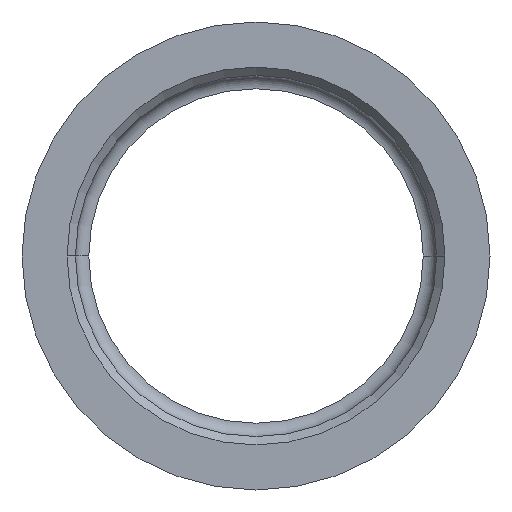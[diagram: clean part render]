
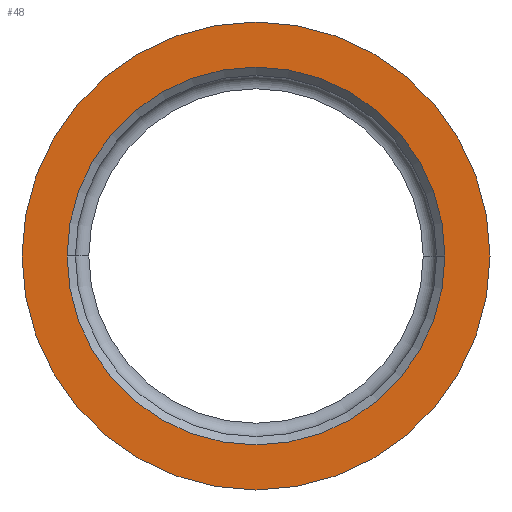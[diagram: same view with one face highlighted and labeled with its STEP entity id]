
A CAD part, front view. The second image highlights one B-rep face of the part: STEP entity #48.
In plain terms, the highlighted planar face has unit normal (0, -1, 0).
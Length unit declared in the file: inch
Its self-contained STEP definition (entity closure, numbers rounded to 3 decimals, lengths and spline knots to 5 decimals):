
#5 = EDGE_LOOP ( 'NONE', ( #27, #10 ) ) ;
#10 = ORIENTED_EDGE ( 'NONE', *, *, #138, .F. ) ;
#16 = ORIENTED_EDGE ( 'NONE', *, *, #85, .T. ) ;
#17 = ORIENTED_EDGE ( 'NONE', *, *, #47, .T. ) ;
#27 = ORIENTED_EDGE ( 'NONE', *, *, #28, .F. ) ;
#28 = EDGE_CURVE ( 'NONE', #136, #115, #227, .T. ) ;
#29 = EDGE_LOOP ( 'NONE', ( #16, #17 ) ) ;
#47 = EDGE_CURVE ( 'NONE', #78, #80, #236, .T. ) ;
#48 = ADVANCED_FACE ( 'NONE', ( #392, #401 ), #394, .F. ) ;
#78 = VERTEX_POINT ( 'NONE', #293 ) ;
#80 = VERTEX_POINT ( 'NONE', #328 ) ;
#85 = EDGE_CURVE ( 'NONE', #80, #78, #336, .T. ) ;
#115 = VERTEX_POINT ( 'NONE', #446 ) ;
#136 = VERTEX_POINT ( 'NONE', #407 ) ;
#138 = EDGE_CURVE ( 'NONE', #115, #136, #415, .T. ) ;
#213 = DIRECTION ( 'NONE',  ( 0., -1., 0. ) ) ;
#221 = DIRECTION ( 'NONE',  ( 1., 0., 0. ) ) ;
#222 = CARTESIAN_POINT ( 'NONE',  ( 0., 0., 0. ) ) ;
#227 = CIRCLE ( 'NONE', #242, 0.7065 ) ;
#233 = DIRECTION ( 'NONE',  ( 1., 0., 0. ) ) ;
#234 = DIRECTION ( 'NONE',  ( 0., -1., 0. ) ) ;
#235 = AXIS2_PLACEMENT_3D ( 'NONE', #251, #234, #233 ) ;
#236 = CIRCLE ( 'NONE', #235, 0.875 ) ;
#242 = AXIS2_PLACEMENT_3D ( 'NONE', #222, #213, #221 ) ;
#251 = CARTESIAN_POINT ( 'NONE',  ( 0., 0., 0. ) ) ;
#293 = CARTESIAN_POINT ( 'NONE',  ( -0.875, 0., 0. ) ) ;
#328 = CARTESIAN_POINT ( 'NONE',  ( 0.875, 0., 0. ) ) ;
#333 = DIRECTION ( 'NONE',  ( 1., 0., 0. ) ) ;
#334 = DIRECTION ( 'NONE',  ( 0., -1., 0. ) ) ;
#335 = AXIS2_PLACEMENT_3D ( 'NONE', #342, #334, #333 ) ;
#336 = CIRCLE ( 'NONE', #335, 0.875 ) ;
#341 = DIRECTION ( 'NONE',  ( 1., 0., 0. ) ) ;
#342 = CARTESIAN_POINT ( 'NONE',  ( 0., 0., 0. ) ) ;
#392 = FACE_BOUND ( 'NONE', #5, .T. ) ;
#393 = AXIS2_PLACEMENT_3D ( 'NONE', #400, #399, #398 ) ;
#394 = PLANE ( 'NONE',  #393 ) ;
#398 = DIRECTION ( 'NONE',  ( -1., 0., 0. ) ) ;
#399 = DIRECTION ( 'NONE',  ( 0., 1., 0. ) ) ;
#400 = CARTESIAN_POINT ( 'NONE',  ( -0.7065, 0., 0. ) ) ;
#401 = FACE_OUTER_BOUND ( 'NONE', #29, .T. ) ;
#407 = CARTESIAN_POINT ( 'NONE',  ( 0.7065, 0., 0. ) ) ;
#412 = DIRECTION ( 'NONE',  ( 0., -1., 0. ) ) ;
#413 = CARTESIAN_POINT ( 'NONE',  ( 0., 0., 0. ) ) ;
#414 = AXIS2_PLACEMENT_3D ( 'NONE', #413, #412, #341 ) ;
#415 = CIRCLE ( 'NONE', #414, 0.7065 ) ;
#446 = CARTESIAN_POINT ( 'NONE',  ( -0.7065, 0., 0. ) ) ;
